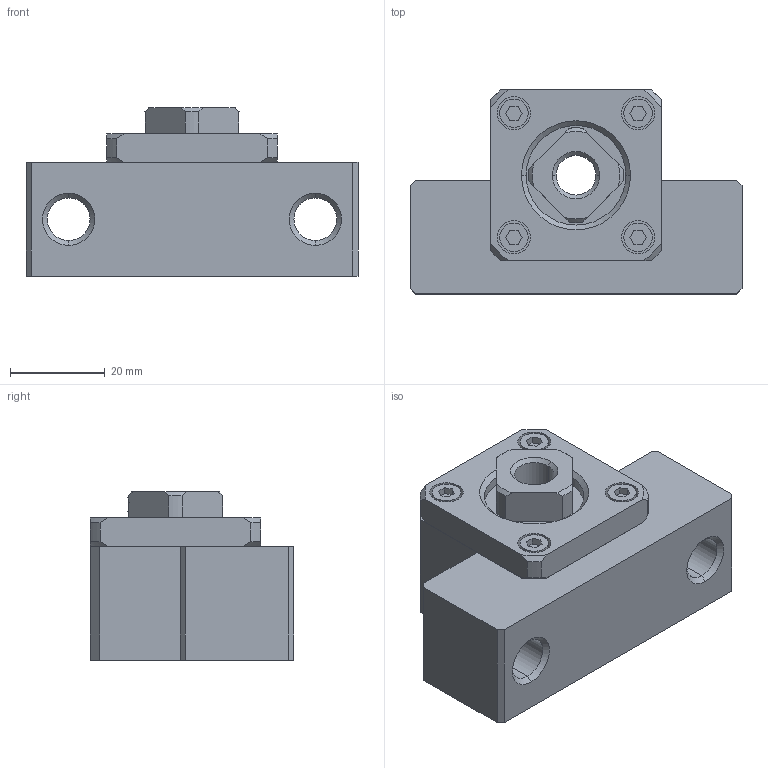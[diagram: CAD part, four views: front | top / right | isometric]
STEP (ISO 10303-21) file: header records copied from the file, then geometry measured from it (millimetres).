
FILE_DESCRIPTION (( 'STEP AP214' ), '1' );
FILE_NAME ('2.4014 Kuularuuvin tukilaakeri EK10.STEP', '2024-05-30T07:26:44', ( '' ), ( '' ), 'SwSTEP 2.0', 'SolidWorks 2024', '' );
FILE_SCHEMA (( 'AUTOMOTIVE_DESIGN' ));
Length unit declared in the file: millimetre
Products named in the file (1): 2.4014 Kuularuuvin tukilaakeri EK10
Bounding box: 70 x 43 x 35.5 mm (x, y, z)
Volume: 59278.6 mm3; surface area: 14997.5 mm2
Topology: 3 solids, 3 shells, 173 faces, 422 edges, 276 vertices
Faces by surface type: plane 88, cylinder 53, cone 30, torus 2
Entity records: 7104 total; most frequent: CARTESIAN_POINT 1141, DIRECTION 858, ORIENTED_EDGE 844, EDGE_CURVE 422, AXIS2_PLACEMENT_3D 313, VERTEX_POINT 276, VECTOR 232, LINE 232
